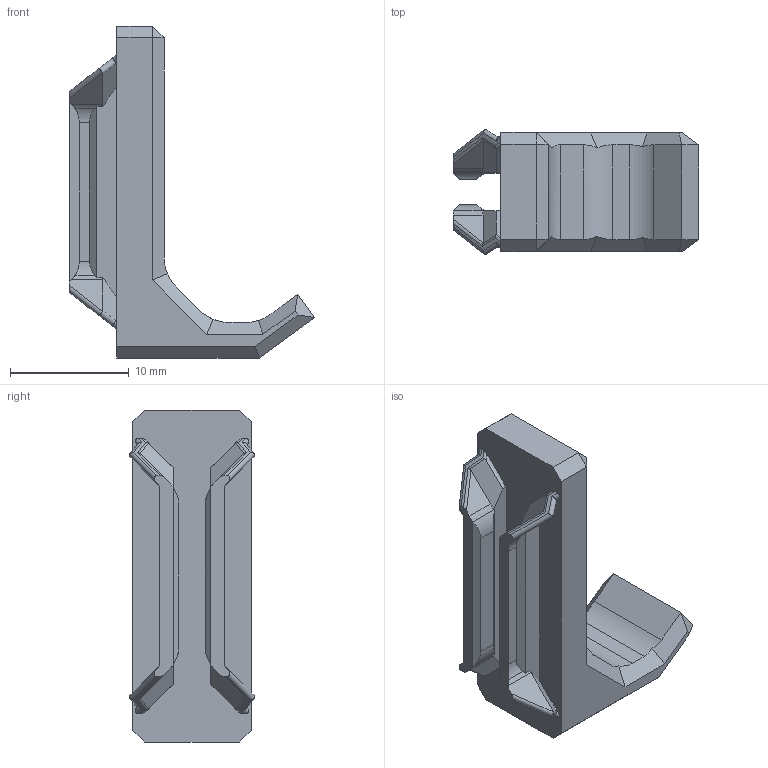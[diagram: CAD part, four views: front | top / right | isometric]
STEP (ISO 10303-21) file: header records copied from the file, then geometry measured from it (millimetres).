
FILE_DESCRIPTION(('HOOPS Exchange Step'),'2;1');
FILE_NAME('/Users/ddanier/Library/Containers/com.shapr3d.shapr/Data/tmp/export/temp_export','2025-03-02T21:59:32+01:00',('ddanier'),('Shapr3D Limited'),'HOOPS Exchange 2024.8','Shapr3D','Authorized');
FILE_SCHEMA( ('AP242_MANAGED_MODEL_BASED_3D_ENGINEERING_MIM_LF {1 0 10303 442 1 1 4}') );
Length unit declared in the file: millimetre
Products named in the file (1): openGrid Minimal Hook
Bounding box: 20.68 x 10.55 x 28 mm (x, y, z)
Volume: 1651.2 mm3; surface area: 1622.9 mm2
Topology: 1 solids, 2 shells, 125 faces, 337 edges, 218 vertices
Faces by surface type: plane 82, cylinder 43
Entity records: 3941 total; most frequent: DIRECTION 687, CARTESIAN_POINT 682, ORIENTED_EDGE 674, EDGE_CURVE 337, VECTOR 241, LINE 241, AXIS2_PLACEMENT_3D 223, VERTEX_POINT 218
